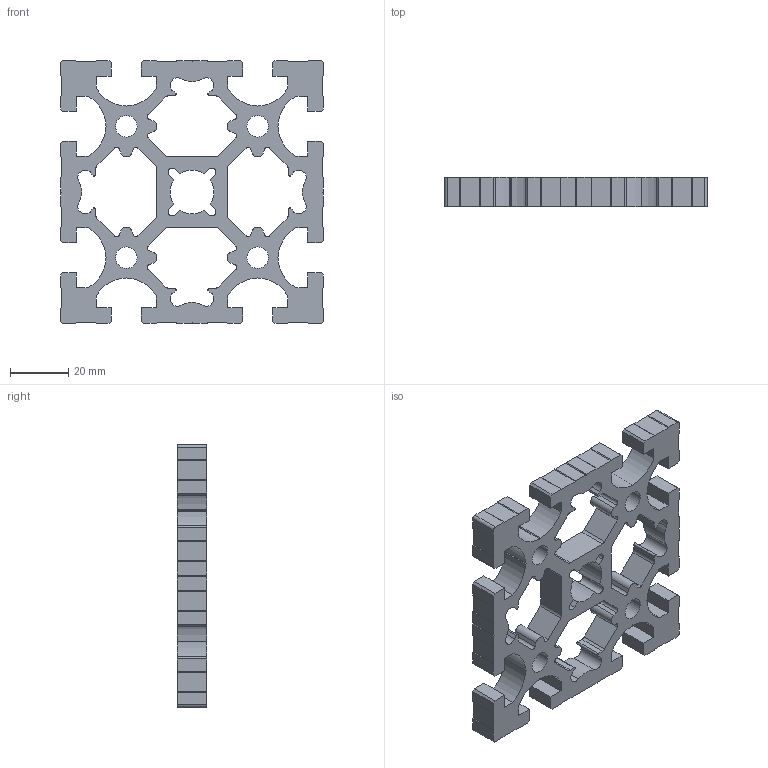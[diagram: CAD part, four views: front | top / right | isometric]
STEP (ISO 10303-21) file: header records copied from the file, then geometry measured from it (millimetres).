
FILE_DESCRIPTION((''),'2;1');
FILE_NAME('PR090090P','2002-12-27T',('Lipro doo'),('Lipro d.o.o.'),'PRO/ENGINEER BY PARAMETRIC TECHNOLOGY CORPORATION, 2001150','PRO/ENGINEER BY PARAMETRIC TECHNOLOGY CORPORATION, 2001150','');
FILE_SCHEMA(('CONFIG_CONTROL_DESIGN'));
Length unit declared in the file: millimetre
Products named in the file (1): PR090090P
Bounding box: 90 x 10 x 90 mm (x, y, z)
Volume: 34790.8 mm3; surface area: 20098.1 mm2
Topology: 1 solids, 1 shells, 326 faces, 980 edges, 648 vertices
Faces by surface type: plane 234, cylinder 92
Entity records: 11030 total; most frequent: CARTESIAN_POINT 1962, ORIENTED_EDGE 1960, DIRECTION 1816, EDGE_CURVE 980, VECTOR 780, LINE 780, VERTEX_POINT 648, AXIS2_PLACEMENT_3D 518
